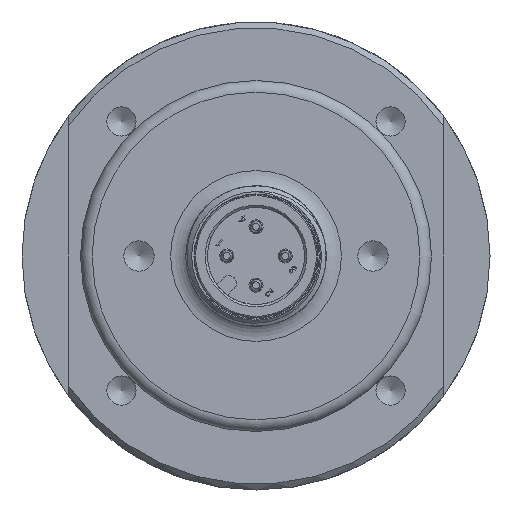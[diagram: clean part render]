
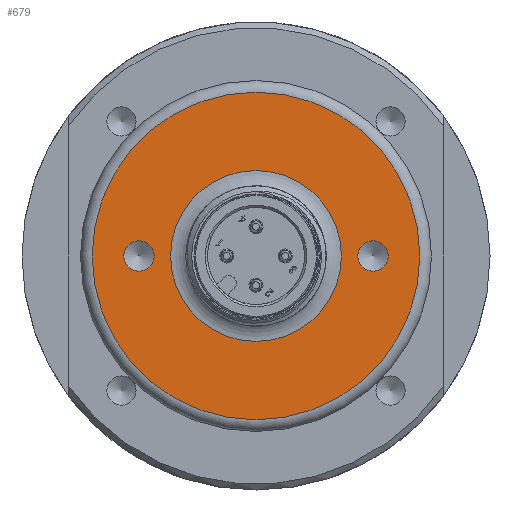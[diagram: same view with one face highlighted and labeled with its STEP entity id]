
A CAD part, front view. The second image highlights one B-rep face of the part: STEP entity #679.
In plain terms, the highlighted planar face has unit normal (0, -1, 0) as drawn and (0, 1, 0) by its records, which use the part's own axes.
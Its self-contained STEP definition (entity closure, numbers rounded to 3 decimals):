
#679 = ADVANCED_FACE( '', ( #1378, #1379, #1380, #1381 ), #1382, .T. );
#1378 = FACE_BOUND( '', #4290, .T. );
#1379 = FACE_OUTER_BOUND( '', #4291, .T. );
#1380 = FACE_BOUND( '', #4292, .T. );
#1381 = FACE_BOUND( '', #4293, .T. );
#1382 = PLANE( '', #4294 );
#4290 = EDGE_LOOP( '', ( #7389 ) );
#4291 = EDGE_LOOP( '', ( #7390 ) );
#4292 = EDGE_LOOP( '', ( #7391 ) );
#4293 = EDGE_LOOP( '', ( #7392 ) );
#4294 = AXIS2_PLACEMENT_3D( '', #7393, #7394, #7395 );
#7389 = ORIENTED_EDGE( '', *, *, #8823, .T. );
#7390 = ORIENTED_EDGE( '', *, *, #8714, .T. );
#7391 = ORIENTED_EDGE( '', *, *, #8719, .T. );
#7392 = ORIENTED_EDGE( '', *, *, #8824, .T. );
#7393 = CARTESIAN_POINT( '', ( -15., -2.104, 0. ) );
#7394 = DIRECTION( '', ( 0., 1., 0. ) );
#7395 = DIRECTION( '', ( -1., 0., 0. ) );
#8714 = EDGE_CURVE( '', #9534, #9534, #9535, .T. );
#8719 = EDGE_CURVE( '', #9542, #9542, #9543, .T. );
#8823 = EDGE_CURVE( '', #9688, #9688, #9689, .F. );
#8824 = EDGE_CURVE( '', #9690, #9690, #9691, .T. );
#9534 = VERTEX_POINT( '', #12680 );
#9535 = CIRCLE( '', #12681, 14. );
#9542 = VERTEX_POINT( '', #12688 );
#9543 = CIRCLE( '', #12689, 1.3 );
#9688 = VERTEX_POINT( '', #13040 );
#9689 = CIRCLE( '', #13041, 7.3 );
#9690 = VERTEX_POINT( '', #13042 );
#9691 = CIRCLE( '', #13043, 1.3 );
#12680 = CARTESIAN_POINT( '', ( -14., -2.104, 0. ) );
#12681 = AXIS2_PLACEMENT_3D( '', #14300, #14301, #14302 );
#12688 = CARTESIAN_POINT( '', ( -1.3, -2.104, -10. ) );
#12689 = AXIS2_PLACEMENT_3D( '', #14309, #14310, #14311 );
#13040 = CARTESIAN_POINT( '', ( -7.3, -2.104, 0. ) );
#13041 = AXIS2_PLACEMENT_3D( '', #14420, #14421, #14422 );
#13042 = CARTESIAN_POINT( '', ( -1.3, -2.104, 10. ) );
#13043 = AXIS2_PLACEMENT_3D( '', #14423, #14424, #14425 );
#14300 = CARTESIAN_POINT( '', ( 0., -2.104, 0. ) );
#14301 = DIRECTION( '', ( 0., 1., 0. ) );
#14302 = DIRECTION( '', ( -1., 0., 0. ) );
#14309 = CARTESIAN_POINT( '', ( 0., -2.104, -10. ) );
#14310 = DIRECTION( '', ( 0., -1., 0. ) );
#14311 = DIRECTION( '', ( -1., 0., 0. ) );
#14420 = CARTESIAN_POINT( '', ( 0., -2.104, 0. ) );
#14421 = DIRECTION( '', ( 0., 1., 0. ) );
#14422 = DIRECTION( '', ( -1., 0., 0. ) );
#14423 = CARTESIAN_POINT( '', ( 0., -2.104, 10. ) );
#14424 = DIRECTION( '', ( 0., -1., 0. ) );
#14425 = DIRECTION( '', ( -1., 0., 0. ) );
